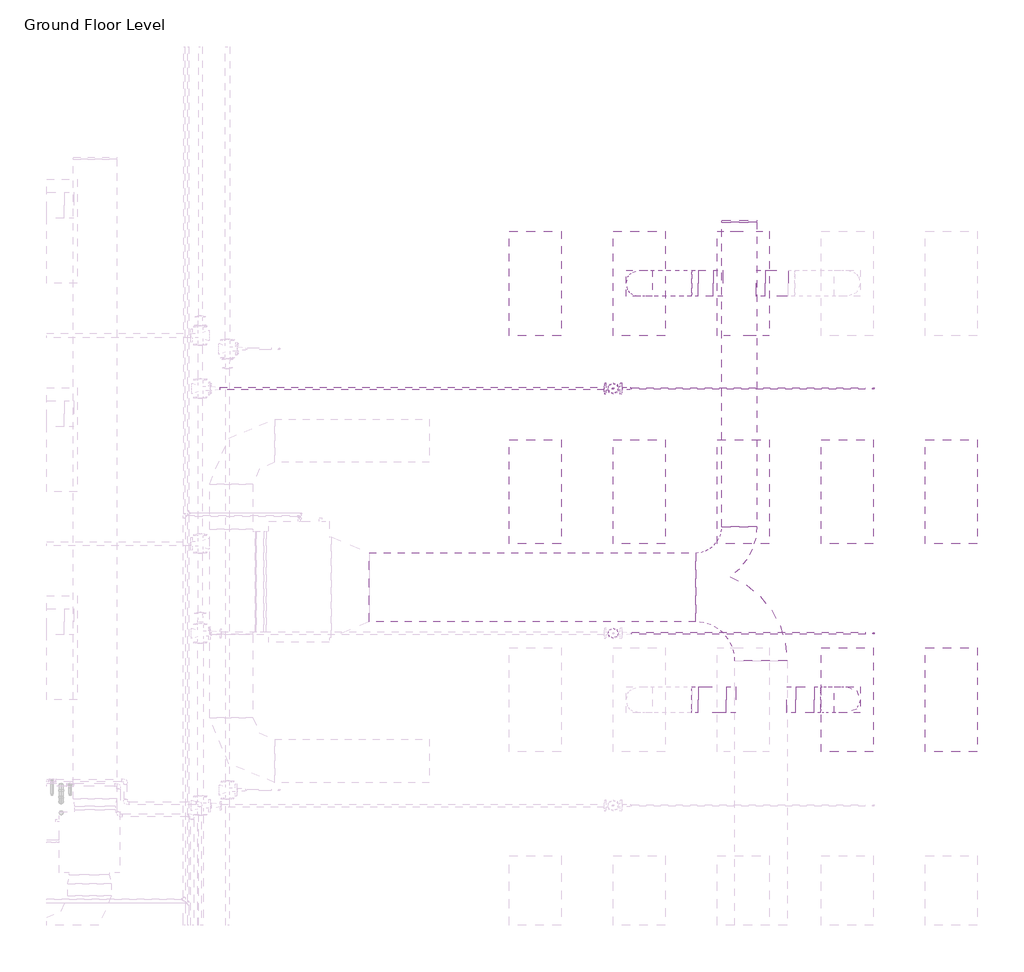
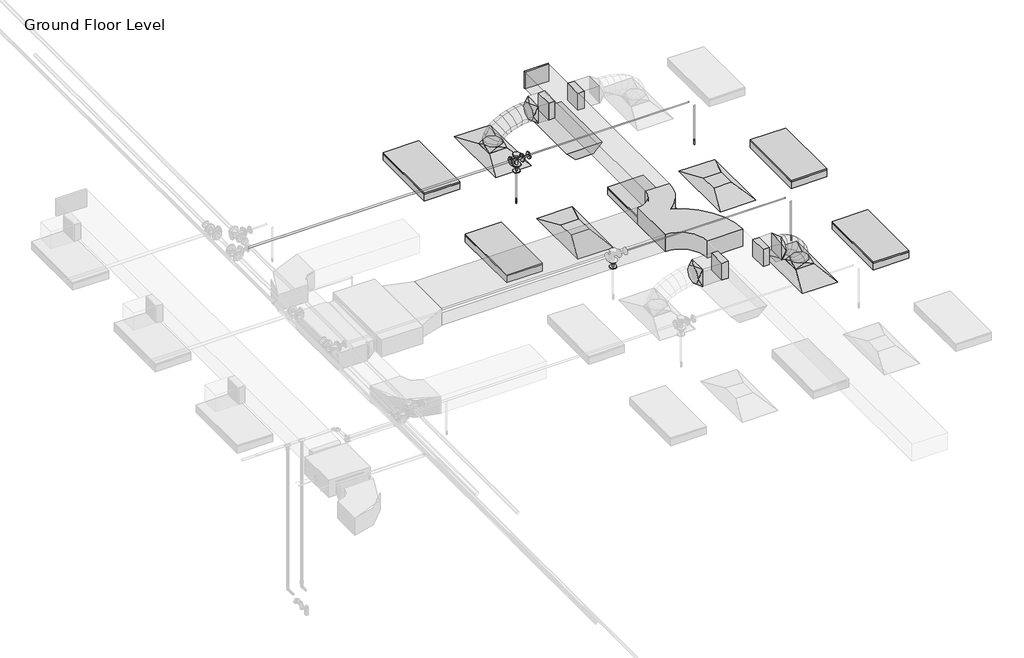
# One storey, part 27 of 66: 11 duct fittings, 8 duct segments, 6 light fixtures, 6 pipe segments, 4 air terminals, 4 pipe fittings, 3 fire suppression terminals.
"""IFC4 building model written with IfcOpenShell, lengths in millimetres."""

from ifc_helpers import new_model, si_unit, point, frame, frame_2d, origin, place, context, project, spatial, polyline, circle_curve, ellipse_curve, trimmed, segment, composite_curve, outline, extrude, transform, mapped, element, save
from ifc_brep_helpers import plane_surface, cylinder_surface, advanced_brep
from components import m_return_diffuser_1200x600_1200_x_600_face_300_x_300_d1983ef6, m_rectangular_endcap_standard_0945e9d3, m_rectangular_takeoff_standard_cb0ccb98, m_rectangular_takeoff_standard_2be5eba1, m_rectangular_wye_curved_transition_standard_4ceeb4da, m_rectangular_to_round_transition_angle_45_degree_641efff0, m_sprinkler_dry_pendent_hosted_15_mm_dry_pendent_9bda8e11, m_emergency_recessed_lighting_fixture_600x1200_277_5b10b25d, m_troffer_light_parabolic_rectangular1_0600x1200mm_4_lamp_86473d4a, m_reducer_flanged_cs_class_150_standard_ccf252ad, m_tee_round_base_flanged_cs_class_150_standard_7e5987a1

model = new_model("IFC4")

# Units and contexts
model_context = context("Model", 3, world=origin())
ifc_project = project(units=[si_unit("LENGTHUNIT", "METRE", prefix="MILLI")], contexts=[model_context])

# Site, building, storey
site = spatial("IfcSite", under=ifc_project)
building = spatial("IfcBuilding", under=site)
storey = spatial("IfcBuildingStorey", under=building, Name="Ground Floor Level", Elevation=900.0)

# Air terminals
placement = place(None, origin())
m_return_diffuser_1200x600_1200_x_600_face_300_x_300_shape = m_return_diffuser_1200x600_1200_x_600_face_300_x_300_d1983ef6(model_context)
element("IfcAirTerminal", 1, ObjectType="M_Return Diffuser 1200x600 : 1200 x 600 Face 300 x 300 Connection", at=placement, inside=storey, context=model_context, shape_type="MappedRepresentation", body=[
    mapped(m_return_diffuser_1200x600_1200_x_600_face_300_x_300_shape, transform((10743.0482736, -20464.7846466, 3650.0), x_axis=(0.0, 1.0, 0.0), y_axis=(-1.0, 0.0, 0.0), z_axis=(0.0, 0.0, 1.0))),
])
element("IfcAirTerminal", 2, ObjectType="M_Return Diffuser 1200x600 : 1200 x 600 Face 300 x 300 Connection", at=placement, inside=storey, context=model_context, shape_type="MappedRepresentation", body=[
    mapped(m_return_diffuser_1200x600_1200_x_600_face_300_x_300_shape, transform((13143.0482736, -20464.7846466, 3650.0), x_axis=(0.0, 1.0, 0.0), y_axis=(-1.0, 0.0, 0.0), z_axis=(0.0, 0.0, 1.0))),
])
element("IfcAirTerminal", 3, ObjectType="M_Supply Diffuser 1200x600 : 1200 x 600 Face 300 x 300 Connection", at=placement, inside=storey, context=model_context, shape_type="MappedRepresentation", body=[
    mapped(m_return_diffuser_1200x600_1200_x_600_face_300_x_300_shape, transform((10743.0482736, -18064.7846466, 3650.0), x_axis=(0.0, 1.0, 0.0), y_axis=(-1.0, 0.0, 0.0), z_axis=(0.0, 0.0, 1.0))),
])
element("IfcAirTerminal", 4, ObjectType="M_Supply Diffuser 1200x600 : 1200 x 600 Face 300 x 300 Connection", at=placement, inside=storey, context=model_context, shape_type="MappedRepresentation", body=[
    mapped(m_return_diffuser_1200x600_1200_x_600_face_300_x_300_shape, transform((13143.0482736, -22864.7846466, 3650.0), x_axis=(0.0, 1.0, 0.0), y_axis=(-1.0, 0.0, 0.0), z_axis=(0.0, 0.0, 1.0))),
])

# Duct fittings
m_rectangular_endcap_standard_shape = m_rectangular_endcap_standard_0945e9d3(model_context)
element("IfcDuctFitting", 5, ObjectType="M_Rectangular Endcap : Standard", at=placement, inside=storey, context=model_context, shape_type="MappedRepresentation", body=[
    mapped(m_rectangular_endcap_standard_shape, transform((11897.7826463, -17358.2846466, 4150.0003854), x_axis=(0.0, 1.0, 0.0), y_axis=(-1.0, 0.0, 0.0), z_axis=(0.0, 0.0, 1.0))),
])
m_rectangular_takeoff_standard_shape = m_rectangular_takeoff_standard_cb0ccb98(model_context)
element("IfcDuctFitting", 6, ObjectType="M_Rectangular Takeoff : Standard", at=placement, inside=storey, context=model_context, shape_type="MappedRepresentation", body=[
    mapped(m_rectangular_takeoff_standard_shape, transform((11697.7826463, -18064.7846466, 4150.0), x_axis=(-1.0, 0.0, 0.0), y_axis=(0.0, 1.0, 0.0), z_axis=(0.0, 0.0, -1.0))),
])
element("IfcDuctFitting", 7, ObjectType="M_Rectangular Takeoff : Standard", at=placement, inside=storey, context=model_context, shape_type="MappedRepresentation", body=[
    mapped(m_rectangular_takeoff_standard_shape, transform((12097.7826463, -18064.7846466, 4150.0), x_axis=(1.0, 0.0, 0.0), y_axis=(0.0, 1.0, 0.0), z_axis=(0.0, 0.0, 1.0))),
])
element("IfcDuctFitting", 8, ObjectType="M_Rectangular Takeoff : Standard", at=placement, inside=storey, context=model_context, shape_type="MappedRepresentation", body=[
    mapped(m_rectangular_takeoff_standard_shape, transform((12447.7826463, -22864.7846466, 4150.0), x_axis=(1.0, 0.0, 0.0), y_axis=(0.0, -1.0, 0.0), z_axis=(0.0, 0.0, -1.0))),
])
m_rectangular_takeoff_standard_2_shape = m_rectangular_takeoff_standard_2be5eba1(model_context)
element("IfcDuctFitting", 9, ObjectType="M_Rectangular Takeoff : Standard", at=placement, inside=storey, context=model_context, shape_type="MappedRepresentation", body=[
    mapped(m_rectangular_takeoff_standard_2_shape, transform((11847.7826463, -22864.7846466, 4150.0), x_axis=(-1.0, 0.0, 0.0), y_axis=(0.0, 1.0, 0.0), z_axis=(0.0, 0.0, -1.0))),
])
m_rectangular_wye_curved_transition_standard_shape = m_rectangular_wye_curved_transition_standard_4ceeb4da(model_context)
element("IfcDuctFitting", 10, ObjectType="M_Rectangular Wye - Curved - Transition : Standard", at=placement, inside=storey, context=model_context, shape_type="MappedRepresentation", body=[
    mapped(m_rectangular_wye_curved_transition_standard_shape, transform((12022.7826463, -21566.5689179, 4150.0003003), x_axis=(0.0, 1.0, 0.0), y_axis=(-0.9999999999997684, 0.0, 6.806625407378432e-07), z_axis=(6.806625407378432e-07, 0.0, 0.9999999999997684))),
])
m_rectangular_to_round_transition_angle_45_degree_shape = m_rectangular_to_round_transition_angle_45_degree_641efff0(model_context)
element("IfcDuctFitting", 11, ObjectType="M_Rectangular to Round Transition - Angle : 45 Degree", at=placement, inside=storey, context=model_context, shape_type="MappedRepresentation", body=[
    mapped(m_rectangular_to_round_transition_angle_45_degree_shape, transform((10743.0482736, -18064.7846466, 3751.6), x_axis=(0.0, 0.0, 1.0), y_axis=(-1.0, 0.0, 0.0), z_axis=(0.0, -1.0, 0.0))),
])
element("IfcDuctFitting", 12, ObjectType="M_Rectangular to Round Transition - Angle : 45 Degree", at=placement, inside=storey, context=model_context, shape_type="MappedRepresentation", body=[
    mapped(m_rectangular_to_round_transition_angle_45_degree_shape, transform((11424.4842049, -18064.7846466, 4150.0), x_axis=(-1.0, 0.0, 0.0), y_axis=(0.0, -1.0, 0.0), z_axis=(0.0, 0.0, 1.0))),
])
element("IfcDuctFitting", 13, ObjectType="M_Rectangular to Round Transition - Angle : 45 Degree", at=placement, inside=storey, context=model_context, shape_type="MappedRepresentation", body=[
    mapped(m_rectangular_to_round_transition_angle_45_degree_shape, transform((11424.4842049, -22864.7846466, 4150.0), x_axis=(-1.0, 0.0, 0.0), y_axis=(0.0, -1.0, 0.0), z_axis=(0.0, 0.0, 1.0))),
])
element("IfcDuctFitting", 14, ObjectType="M_Rectangular to Round Transition - Angle : 45 Degree", at=placement, inside=storey, context=model_context, shape_type="MappedRepresentation", body=[
    mapped(m_rectangular_to_round_transition_angle_45_degree_shape, transform((13143.0482736, -22864.7846466, 3751.6), x_axis=(0.0, 0.0, 1.0), y_axis=(-1.0, 0.0, 0.0), z_axis=(0.0, -1.0, 0.0))),
])
element("IfcDuctFitting", 15, ObjectType="M_Rectangular to Round Transition - Angle : 45 Degree", at=placement, inside=storey, context=model_context, shape_type="MappedRepresentation", body=[
    mapped(m_rectangular_to_round_transition_angle_45_degree_shape, transform((12761.6125477, -22864.7846466, 4150.0), x_axis=(1.0, 0.0, 0.0), y_axis=(0.0, 1.0, 0.0), z_axis=(0.0, 0.0, 1.0))),
])

# Duct segments
element("IfcDuctSegment", 16, ObjectType="Flex - Round", at=placement, inside=storey, context=model_context, shape_type="AdvancedBrep", body=[
    advanced_brep(
    [(10893.0482736, -18064.7846466, 3826.6), (10743.0482736, -18214.7846466, 3826.6), (10593.0482736, -18064.7846466, 3826.6), (10743.0482736, -17914.7846466, 3826.6), (10893.0482736, -18064.7846466, 3832.4838104), (10743.0482736, -18214.7846466, 3857.3049615), (10593.0482736, -18064.7846466, 3882.1261126), (10743.0482736, -17914.7846466, 3857.3049615), (10895.1777586, -18064.7846466, 3838.7421096), (10759.7096782, -18214.7846466, 3906.2708192), (10624.2415979, -18064.7846466, 3973.7995287), (10759.7096782, -17914.7846466, 3906.2708192), (10917.1997864, -18064.7846466, 3871.1472855), (10805.5876959, -18214.7846466, 3973.7798261), (10693.9756053, -18064.7846466, 4076.4123668), (10805.5876959, -17914.7846466, 3973.7798261), (10957.142511, -18064.7846466, 3903.4915826), (10874.5230324, -18214.7846466, 4029.6013814), (10791.9035539, -18064.7846466, 4155.7111802), (10874.5230324, -17914.7846466, 4029.6013814), (11020.0646936, -18064.7846466, 3936.1928758), (10960.3563938, -18214.7846466, 4074.2098454), (10900.6480941, -18064.7846466, 4212.226815), (10960.3563938, -17914.7846466, 4074.2098454), (11098.9170855, -18064.7846466, 3963.8479616), (11056.9284859, -18214.7846466, 4108.0795788), (11014.9398863, -18064.7846466, 4252.311196), (11056.9284859, -17914.7846466, 4108.0795788), (11185.4890682, -18064.7846466, 3984.0509494), (11158.0800145, -18214.7846466, 4131.684942), (11130.6709609, -18064.7846466, 4279.3189347), (11158.0800145, -17914.7846466, 4131.684942), (11271.9732516, -18064.7846466, 3996.0504424), (11257.6516856, -18214.7846466, 4145.5002956), (11243.3301196, -18064.7846466, 4294.9501488), (11257.6516856, -17914.7846466, 4145.5002956), (11346.1345531, -18064.7846466, 4000.0), (11342.1431577, -18214.7846466, 4150.0), (11338.1517622, -18064.7846466, 4300.0), (11342.1431577, -17914.7846466, 4150.0), (11349.4842049, -18064.7846466, 4000.0), (11349.4842049, -17914.7846466, 4150.0), (11349.4842049, -18064.7846466, 4300.0), (11349.4842049, -18214.7846466, 4150.0)],
    [
        (0, 1, circle_curve(frame((10743.0482736, -18064.7846466, 3826.6), z_axis=(0.0, 0.0, -1.0), x_axis=(1.0, 0.0, 0.0)), 150.0)),
        (1, 2, circle_curve(frame((10743.0482736, -18064.7846466, 3826.6), z_axis=(0.0, 0.0, -1.0), x_axis=(1.0, 0.0, 0.0)), 150.0)),
        (2, 3, circle_curve(frame((10743.0482736, -18064.7846466, 3826.6), z_axis=(0.0, 0.0, -1.0), x_axis=(1.0, 0.0, 0.0)), 150.0)),
        (3, 0, circle_curve(frame((10743.0482736, -18064.7846466, 3826.6), z_axis=(0.0, 0.0, -1.0), x_axis=(1.0, 0.0, 0.0)), 150.0)),
        (0, 4),
        (4, 5, ellipse_curve(frame((10743.0482736, -18064.7846466, 3857.3049615), z_axis=(-0.1632543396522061, 0.0, -0.9865840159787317), x_axis=(0.9865840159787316, 0.0, -0.16325433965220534)), 152.039763, 150.0)),
        (5, 1),
        (5, 6, ellipse_curve(frame((10743.0482736, -18064.7846466, 3857.3049615), z_axis=(-0.1632543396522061, 0.0, -0.9865840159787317), x_axis=(0.9865840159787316, 0.0, -0.16325433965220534)), 152.039763, 150.0)),
        (6, 2),
        (6, 7, ellipse_curve(frame((10743.0482736, -18064.7846466, 3857.3049615), z_axis=(-0.1632543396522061, 0.0, -0.9865840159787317), x_axis=(0.9865840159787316, 0.0, -0.16325433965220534)), 152.039763, 150.0)),
        (7, 3),
        (7, 4, ellipse_curve(frame((10743.0482736, -18064.7846466, 3857.3049615), z_axis=(-0.1632543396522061, 0.0, -0.9865840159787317), x_axis=(0.9865840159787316, 0.0, -0.16325433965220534)), 152.039763, 150.0)),
        (4, 8),
        (8, 9, ellipse_curve(frame((10759.7096782, -18064.7846466, 3906.2708192), z_axis=(-0.4461280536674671, 0.0, -0.8949691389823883), x_axis=(0.8949691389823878, 0.0, -0.4461280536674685)), 151.366203, 150.0)),
        (9, 5),
        (9, 10, ellipse_curve(frame((10759.7096782, -18064.7846466, 3906.2708192), z_axis=(-0.4461280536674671, 0.0, -0.8949691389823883), x_axis=(0.8949691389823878, 0.0, -0.4461280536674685)), 151.366203, 150.0)),
        (10, 6),
        (10, 11, ellipse_curve(frame((10759.7096782, -18064.7846466, 3906.2708192), z_axis=(-0.4461280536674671, 0.0, -0.8949691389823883), x_axis=(0.8949691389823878, 0.0, -0.4461280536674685)), 151.366203, 150.0)),
        (11, 7),
        (11, 8, ellipse_curve(frame((10759.7096782, -18064.7846466, 3906.2708192), z_axis=(-0.4461280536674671, 0.0, -0.8949691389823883), x_axis=(0.8949691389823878, 0.0, -0.4461280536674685)), 151.366203, 150.0)),
        (8, 12),
        (12, 13, ellipse_curve(frame((10805.5876959, -18064.7846466, 3973.7798261), z_axis=(-0.676875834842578, 0.0, -0.7360972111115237), x_axis=(0.7360972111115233, 0.0, -0.6768758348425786)), 151.6268352, 150.0)),
        (13, 9),
        (13, 14, ellipse_curve(frame((10805.5876959, -18064.7846466, 3973.7798261), z_axis=(-0.676875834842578, 0.0, -0.7360972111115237), x_axis=(0.7360972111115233, 0.0, -0.6768758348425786)), 151.6268352, 150.0)),
        (14, 10),
        (14, 15, ellipse_curve(frame((10805.5876959, -18064.7846466, 3973.7798261), z_axis=(-0.676875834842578, 0.0, -0.7360972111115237), x_axis=(0.7360972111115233, 0.0, -0.6768758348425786)), 151.6268352, 150.0)),
        (15, 11),
        (15, 12, ellipse_curve(frame((10805.5876959, -18064.7846466, 3973.7798261), z_axis=(-0.676875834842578, 0.0, -0.7360972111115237), x_axis=(0.7360972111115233, 0.0, -0.6768758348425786)), 151.6268352, 150.0)),
        (12, 16),
        (16, 17, ellipse_curve(frame((10874.5230324, -18064.7846466, 4029.6013814), z_axis=(-0.8364738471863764, 0.0, -0.5480068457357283), x_axis=(0.5480068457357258, 0.0, -0.8364738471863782)), 150.7635884, 150.0)),
        (17, 13),
        (17, 18, ellipse_curve(frame((10874.5230324, -18064.7846466, 4029.6013814), z_axis=(-0.8364738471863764, 0.0, -0.5480068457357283), x_axis=(0.5480068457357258, 0.0, -0.8364738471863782)), 150.7635884, 150.0)),
        (18, 14),
        (18, 19, ellipse_curve(frame((10874.5230324, -18064.7846466, 4029.6013814), z_axis=(-0.8364738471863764, 0.0, -0.5480068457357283), x_axis=(0.5480068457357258, 0.0, -0.8364738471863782)), 150.7635884, 150.0)),
        (19, 15),
        (19, 16, ellipse_curve(frame((10874.5230324, -18064.7846466, 4029.6013814), z_axis=(-0.8364738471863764, 0.0, -0.5480068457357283), x_axis=(0.5480068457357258, 0.0, -0.8364738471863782)), 150.7635884, 150.0)),
        (16, 20),
        (20, 21, ellipse_curve(frame((10960.3563938, -18064.7846466, 4074.2098454), z_axis=(-0.9177957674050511, 0.0, -0.39705280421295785), x_axis=(0.3970528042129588, 0.0, -0.9177957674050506)), 150.3787384, 150.0)),
        (21, 17),
        (21, 22, ellipse_curve(frame((10960.3563938, -18064.7846466, 4074.2098454), z_axis=(-0.9177957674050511, 0.0, -0.39705280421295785), x_axis=(0.3970528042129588, 0.0, -0.9177957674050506)), 150.3787384, 150.0)),
        (22, 18),
        (22, 23, ellipse_curve(frame((10960.3563938, -18064.7846466, 4074.2098454), z_axis=(-0.9177957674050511, 0.0, -0.39705280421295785), x_axis=(0.3970528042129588, 0.0, -0.9177957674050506)), 150.3787384, 150.0)),
        (23, 19),
        (23, 20, ellipse_curve(frame((10960.3563938, -18064.7846466, 4074.2098454), z_axis=(-0.9177957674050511, 0.0, -0.39705280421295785), x_axis=(0.3970528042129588, 0.0, -0.9177957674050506)), 150.3787384, 150.0)),
        (20, 24),
        (24, 25, ellipse_curve(frame((11056.9284859, -18064.7846466, 4108.0795788), z_axis=(-0.9601411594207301, 0.0, -0.2795155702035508), x_axis=(0.2795155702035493, 0.0, -0.9601411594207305)), 150.2191795, 150.0)),
        (25, 21),
        (25, 26, ellipse_curve(frame((11056.9284859, -18064.7846466, 4108.0795788), z_axis=(-0.9601411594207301, 0.0, -0.2795155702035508), x_axis=(0.2795155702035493, 0.0, -0.9601411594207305)), 150.2191795, 150.0)),
        (26, 22),
        (26, 27, ellipse_curve(frame((11056.9284859, -18064.7846466, 4108.0795788), z_axis=(-0.9601411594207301, 0.0, -0.2795155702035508), x_axis=(0.2795155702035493, 0.0, -0.9601411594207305)), 150.2191795, 150.0)),
        (27, 23),
        (27, 24, ellipse_curve(frame((11056.9284859, -18064.7846466, 4108.0795788), z_axis=(-0.9601411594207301, 0.0, -0.2795155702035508), x_axis=(0.2795155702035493, 0.0, -0.9601411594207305)), 150.2191795, 150.0)),
        (24, 28),
        (28, 29, ellipse_curve(frame((11158.0800145, -18064.7846466, 4131.684942), z_axis=(-0.9831991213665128, 0.0, -0.18253626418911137), x_axis=(0.18253626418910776, 0.0, -0.9831991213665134)), 150.1567581, 150.0)),
        (29, 25),
        (29, 30, ellipse_curve(frame((11158.0800145, -18064.7846466, 4131.684942), z_axis=(-0.9831991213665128, 0.0, -0.18253626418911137), x_axis=(0.18253626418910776, 0.0, -0.9831991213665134)), 150.1567581, 150.0)),
        (30, 26),
        (30, 31, ellipse_curve(frame((11158.0800145, -18064.7846466, 4131.684942), z_axis=(-0.9831991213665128, 0.0, -0.18253626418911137), x_axis=(0.18253626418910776, 0.0, -0.9831991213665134)), 150.1567581, 150.0)),
        (31, 27),
        (31, 28, ellipse_curve(frame((11158.0800145, -18064.7846466, 4131.684942), z_axis=(-0.9831991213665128, 0.0, -0.18253626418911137), x_axis=(0.18253626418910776, 0.0, -0.9831991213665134)), 150.1567581, 150.0)),
        (28, 32),
        (32, 33, ellipse_curve(frame((11257.6516856, -18064.7846466, 4145.5002956), z_axis=(-0.9954398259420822, 0.0, -0.09539157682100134), x_axis=(0.09539157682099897, 0.0, -0.9954398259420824)), 150.1344926, 150.0)),
        (33, 29),
        (33, 34, ellipse_curve(frame((11257.6516856, -18064.7846466, 4145.5002956), z_axis=(-0.9954398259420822, 0.0, -0.09539157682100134), x_axis=(0.09539157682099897, 0.0, -0.9954398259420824)), 150.1344926, 150.0)),
        (34, 30),
        (34, 35, ellipse_curve(frame((11257.6516856, -18064.7846466, 4145.5002956), z_axis=(-0.9954398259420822, 0.0, -0.09539157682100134), x_axis=(0.09539157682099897, 0.0, -0.9954398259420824)), 150.1344926, 150.0)),
        (35, 31),
        (35, 32, ellipse_curve(frame((11257.6516856, -18064.7846466, 4145.5002956), z_axis=(-0.9954398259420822, 0.0, -0.09539157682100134), x_axis=(0.09539157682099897, 0.0, -0.9954398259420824)), 150.1344926, 150.0)),
        (32, 36),
        (36, 37, ellipse_curve(frame((11342.1431577, -18064.7846466, 4150.0), z_axis=(-0.9996461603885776, 0.0, -0.02659988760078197), x_axis=(0.026599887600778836, 0.0, -0.9996461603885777)), 150.0530947, 150.0)),
        (37, 33),
        (37, 38, ellipse_curve(frame((11342.1431577, -18064.7846466, 4150.0), z_axis=(-0.9996461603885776, 0.0, -0.02659988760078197), x_axis=(0.026599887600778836, 0.0, -0.9996461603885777)), 150.0530947, 150.0)),
        (38, 34),
        (38, 39, ellipse_curve(frame((11342.1431577, -18064.7846466, 4150.0), z_axis=(-0.9996461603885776, 0.0, -0.02659988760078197), x_axis=(0.026599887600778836, 0.0, -0.9996461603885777)), 150.0530947, 150.0)),
        (39, 35),
        (39, 36, ellipse_curve(frame((11342.1431577, -18064.7846466, 4150.0), z_axis=(-0.9996461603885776, 0.0, -0.02659988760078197), x_axis=(0.026599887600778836, 0.0, -0.9996461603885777)), 150.0530947, 150.0)),
        (40, 41, circle_curve(frame((11349.4842049, -18064.7846466, 4150.0), z_axis=(1.0, 0.0, 0.0), x_axis=(0.0, 0.0, -1.0)), 150.0)),
        (41, 42, circle_curve(frame((11349.4842049, -18064.7846466, 4150.0), z_axis=(1.0, 0.0, 0.0), x_axis=(0.0, 0.0, -1.0)), 150.0)),
        (42, 43, circle_curve(frame((11349.4842049, -18064.7846466, 4150.0), z_axis=(1.0, 0.0, 0.0), x_axis=(0.0, 0.0, -1.0)), 150.0)),
        (43, 40, circle_curve(frame((11349.4842049, -18064.7846466, 4150.0), z_axis=(1.0, 0.0, 0.0), x_axis=(0.0, 0.0, -1.0)), 150.0)),
        (36, 40),
        (43, 37),
        (42, 38),
        (41, 39),
    ],
    [
        plane_surface(frame((10743.0482736, -18214.7846466, 3826.6), z_axis=(0.0, 0.0, -1.0), x_axis=(1.0, 0.0, 0.0))),
        cylinder_surface(frame((10743.0482736, -18064.7846466, 3826.6), z_axis=(0.0, 0.0, -1.0), x_axis=(1.0, 0.0, 0.0)), 150.0),
        cylinder_surface(frame((10743.0482736, -18064.7846466, 3857.3049615), z_axis=(-0.3221282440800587, 0.0, -0.9466960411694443), x_axis=(0.9466960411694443, 0.0, -0.3221282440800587)), 150.0),
        cylinder_surface(frame((10759.7096782, -18064.7846466, 3906.2708192), z_axis=(-0.5620745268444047, 0.0, -0.8270865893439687), x_axis=(0.8270865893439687, 0.0, -0.5620745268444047)), 150.0),
        cylinder_surface(frame((10805.5876959, -18064.7846466, 3973.7798261), z_axis=(-0.7771524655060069, 0.0, -0.629312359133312), x_axis=(0.629312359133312, 0.0, -0.7771524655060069)), 150.0),
        cylinder_surface(frame((10874.5230324, -18064.7846466, 4029.6013814), z_axis=(-0.8873220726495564, 0.0, -0.46115023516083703), x_axis=(0.46115023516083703, 0.0, -0.8873220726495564)), 150.0),
        cylinder_surface(frame((10960.3563938, -18064.7846466, 4074.2098454), z_axis=(-0.9436464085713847, 0.0, -0.3309553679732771), x_axis=(0.3309553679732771, 0.0, -0.9436464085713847)), 150.0),
        cylinder_surface(frame((11056.9284859, -18064.7846466, 4108.0795788), z_axis=(-0.9738340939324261, 0.0, -0.22726010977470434), x_axis=(0.22726010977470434, 0.0, -0.9738340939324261)), 150.0),
        cylinder_surface(frame((11158.0800145, -18064.7846466, 4131.684942), z_axis=(-0.9905113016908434, 0.0, -0.13743129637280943), x_axis=(0.13743129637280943, 0.0, -0.9905113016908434)), 150.0),
        cylinder_surface(frame((11257.6516856, -18064.7846466, 4145.5002956), z_axis=(-0.9985848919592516, 0.0, -0.05318095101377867), x_axis=(0.05318095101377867, 0.0, -0.9985848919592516)), 150.0),
        plane_surface(frame((11349.4842049, -18064.7846466, 4000.0), z_axis=(1.0, 0.0, 0.0), x_axis=(0.0, 1.0, 0.0))),
        cylinder_surface(frame((11342.1431577, -18064.7846466, 4150.0), z_axis=(-1.0, 0.0, 0.0), x_axis=(0.0, 0.0, -1.0)), 150.0),
    ],
    [
        (0, [[1, 2, 3, 4]]),
        (1, [[-1, 5, 6, 7]]),
        (1, [[-2, -7, 8, 9]]),
        (1, [[-3, -9, 10, 11]]),
        (1, [[-4, -11, 12, -5]]),
        (2, [[-6, 13, 14, 15]]),
        (2, [[-8, -15, 16, 17]]),
        (2, [[-10, -17, 18, 19]]),
        (2, [[-12, -19, 20, -13]]),
        (3, [[-14, 21, 22, 23]]),
        (3, [[-16, -23, 24, 25]]),
        (3, [[-18, -25, 26, 27]]),
        (3, [[-20, -27, 28, -21]]),
        (4, [[-22, 29, 30, 31]]),
        (4, [[-24, -31, 32, 33]]),
        (4, [[-26, -33, 34, 35]]),
        (4, [[-28, -35, 36, -29]]),
        (5, [[-30, 37, 38, 39]]),
        (5, [[-32, -39, 40, 41]]),
        (5, [[-34, -41, 42, 43]]),
        (5, [[-36, -43, 44, -37]]),
        (6, [[-38, 45, 46, 47]]),
        (6, [[-40, -47, 48, 49]]),
        (6, [[-42, -49, 50, 51]]),
        (6, [[-44, -51, 52, -45]]),
        (7, [[-46, 53, 54, 55]]),
        (7, [[-48, -55, 56, 57]]),
        (7, [[-50, -57, 58, 59]]),
        (7, [[-52, -59, 60, -53]]),
        (8, [[-54, 61, 62, 63]]),
        (8, [[-56, -63, 64, 65]]),
        (8, [[-58, -65, 66, 67]]),
        (8, [[-60, -67, 68, -61]]),
        (9, [[-62, 69, 70, 71]]),
        (9, [[-64, -71, 72, 73]]),
        (9, [[-66, -73, 74, 75]]),
        (9, [[-68, -75, 76, -69]]),
        (10, [[77, 78, 79, 80]]),
        (11, [[-70, 81, -80, 82]]),
        (11, [[-72, -82, -79, 83]]),
        (11, [[-74, -83, -78, 84]]),
        (11, [[-76, -84, -77, -81]]),
    ],
),
])
element("IfcDuctSegment", 17, ObjectType="Flex - Round", at=placement, inside=storey, context=model_context, shape_type="AdvancedBrep", body=[
    advanced_brep(
    [(13293.0482736, -22864.7846466, 3826.6), (13143.0482736, -23014.7846466, 3826.6), (12993.0482736, -22864.7846466, 3826.6), (13143.0482736, -22714.7846466, 3826.6), (13293.0482736, -22864.7846466, 3876.0801412), (13143.0482736, -23014.7846466, 3855.2056612), (12993.0482736, -22864.7846466, 3834.3311813), (13143.0482736, -22714.7846466, 3855.2056612), (13265.1827485, -22864.7846466, 3974.2593667), (13125.4356823, -23014.7846466, 3917.2604967), (12985.6886161, -22864.7846466, 3860.2616267), (13125.4356823, -22714.7846466, 3917.2604967), (13200.641408, -22864.7846466, 4092.9658971), (13077.9530706, -23014.7846466, 4004.5920588), (12955.2647333, -22864.7846466, 3916.2182204), (13077.9530706, -22714.7846466, 4004.5920588), (13104.7566275, -22864.7846466, 4195.7964222), (13008.633182, -23014.7846466, 4078.9333725), (12912.5097364, -22864.7846466, 3962.0703229), (13008.633182, -22714.7846466, 4078.9333725), (12990.1102871, -22864.7846466, 4267.0876349), (12925.5087598, -23014.7846466, 4130.6231242), (12860.9072326, -22864.7846466, 3994.1586134), (12925.5087598, -22714.7846466, 4130.6231242), (12893.3776503, -22864.7846466, 4300.0), (12868.5582402, -23014.7846466, 4150.0), (12843.7388301, -22864.7846466, 4000.0), (12868.5582402, -22714.7846466, 4150.0), (12836.6125477, -22864.7846466, 4300.0), (12836.6125477, -23014.7846466, 4150.0), (12836.6125477, -22864.7846466, 4000.0), (12836.6125477, -22714.7846466, 4150.0)],
    [
        (0, 1, circle_curve(frame((13143.0482736, -22864.7846466, 3826.6), z_axis=(0.0, 0.0, -1.0), x_axis=(1.0, 0.0, 0.0)), 150.0)),
        (1, 2, circle_curve(frame((13143.0482736, -22864.7846466, 3826.6), z_axis=(0.0, 0.0, -1.0), x_axis=(1.0, 0.0, 0.0)), 150.0)),
        (2, 3, circle_curve(frame((13143.0482736, -22864.7846466, 3826.6), z_axis=(0.0, 0.0, -1.0), x_axis=(1.0, 0.0, 0.0)), 150.0)),
        (3, 0, circle_curve(frame((13143.0482736, -22864.7846466, 3826.6), z_axis=(0.0, 0.0, -1.0), x_axis=(1.0, 0.0, 0.0)), 150.0)),
        (0, 4),
        (4, 5, ellipse_curve(frame((13143.0482736, -22864.7846466, 3855.2056612), z_axis=(0.13783491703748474, 0.0, -0.9904552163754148), x_axis=(-0.9904552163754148, 0.0, -0.13783491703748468)), 151.4455147, 150.0)),
        (5, 1),
        (5, 6, ellipse_curve(frame((13143.0482736, -22864.7846466, 3855.2056612), z_axis=(0.13783491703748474, 0.0, -0.9904552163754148), x_axis=(-0.9904552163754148, 0.0, -0.13783491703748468)), 151.4455147, 150.0)),
        (6, 2),
        (6, 7, ellipse_curve(frame((13143.0482736, -22864.7846466, 3855.2056612), z_axis=(0.13783491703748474, 0.0, -0.9904552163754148), x_axis=(-0.9904552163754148, 0.0, -0.13783491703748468)), 151.4455147, 150.0)),
        (7, 3),
        (7, 4, ellipse_curve(frame((13143.0482736, -22864.7846466, 3855.2056612), z_axis=(0.13783491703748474, 0.0, -0.9904552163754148), x_axis=(-0.9904552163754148, 0.0, -0.13783491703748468)), 151.4455147, 150.0)),
        (4, 8),
        (8, 9, ellipse_curve(frame((13125.4356823, -22864.7846466, 3917.2604967), z_axis=(0.3776655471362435, 0.0, -0.9259420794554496), x_axis=(-0.9259420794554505, 0.0, -0.3776655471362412)), 150.9241985, 150.0)),
        (9, 5),
        (9, 10, ellipse_curve(frame((13125.4356823, -22864.7846466, 3917.2604967), z_axis=(0.3776655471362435, 0.0, -0.9259420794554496), x_axis=(-0.9259420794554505, 0.0, -0.3776655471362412)), 150.9241985, 150.0)),
        (10, 6),
        (10, 11, ellipse_curve(frame((13125.4356823, -22864.7846466, 3917.2604967), z_axis=(0.3776655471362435, 0.0, -0.9259420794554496), x_axis=(-0.9259420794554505, 0.0, -0.3776655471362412)), 150.9241985, 150.0)),
        (11, 7),
        (11, 8, ellipse_curve(frame((13125.4356823, -22864.7846466, 3917.2604967), z_axis=(0.3776655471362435, 0.0, -0.9259420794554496), x_axis=(-0.9259420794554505, 0.0, -0.3776655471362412)), 150.9241985, 150.0)),
        (8, 12),
        (12, 13, ellipse_curve(frame((13077.9530706, -22864.7846466, 4004.5920588), z_axis=(0.5844712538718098, 0.0, -0.8114144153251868), x_axis=(-0.8114144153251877, 0.0, -0.5844712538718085)), 151.2030536, 150.0)),
        (13, 9),
        (13, 14, ellipse_curve(frame((13077.9530706, -22864.7846466, 4004.5920588), z_axis=(0.5844712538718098, 0.0, -0.8114144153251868), x_axis=(-0.8114144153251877, 0.0, -0.5844712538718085)), 151.2030536, 150.0)),
        (14, 10),
        (14, 15, ellipse_curve(frame((13077.9530706, -22864.7846466, 4004.5920588), z_axis=(0.5844712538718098, 0.0, -0.8114144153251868), x_axis=(-0.8114144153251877, 0.0, -0.5844712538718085)), 151.2030536, 150.0)),
        (15, 11),
        (15, 12, ellipse_curve(frame((13077.9530706, -22864.7846466, 4004.5920588), z_axis=(0.5844712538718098, 0.0, -0.8114144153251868), x_axis=(-0.8114144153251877, 0.0, -0.5844712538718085)), 151.2030536, 150.0)),
        (12, 16),
        (16, 17, ellipse_curve(frame((13008.633182, -22864.7846466, 4078.9333725), z_axis=(0.7723086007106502, 0.0, -0.6352475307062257), x_axis=(-0.6352475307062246, 0.0, -0.7723086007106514)), 151.3165198, 150.0)),
        (17, 13),
        (17, 18, ellipse_curve(frame((13008.633182, -22864.7846466, 4078.9333725), z_axis=(0.7723086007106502, 0.0, -0.6352475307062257), x_axis=(-0.6352475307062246, 0.0, -0.7723086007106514)), 151.3165198, 150.0)),
        (18, 14),
        (18, 19, ellipse_curve(frame((13008.633182, -22864.7846466, 4078.9333725), z_axis=(0.7723086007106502, 0.0, -0.6352475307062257), x_axis=(-0.6352475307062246, 0.0, -0.7723086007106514)), 151.3165198, 150.0)),
        (19, 15),
        (19, 16, ellipse_curve(frame((13008.633182, -22864.7846466, 4078.9333725), z_axis=(0.7723086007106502, 0.0, -0.6352475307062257), x_axis=(-0.6352475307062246, 0.0, -0.7723086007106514)), 151.3165198, 150.0)),
        (16, 20),
        (20, 21, ellipse_curve(frame((12925.5087598, -22864.7846466, 4130.6231242), z_axis=(0.9038391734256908, 0.0, -0.4278723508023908), x_axis=(-0.4278723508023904, 0.0, -0.903839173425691)), 150.983178, 150.0)),
        (21, 17),
        (21, 22, ellipse_curve(frame((12925.5087598, -22864.7846466, 4130.6231242), z_axis=(0.9038391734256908, 0.0, -0.4278723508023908), x_axis=(-0.4278723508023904, 0.0, -0.903839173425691)), 150.983178, 150.0)),
        (22, 18),
        (22, 23, ellipse_curve(frame((12925.5087598, -22864.7846466, 4130.6231242), z_axis=(0.9038391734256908, 0.0, -0.4278723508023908), x_axis=(-0.4278723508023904, 0.0, -0.903839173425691)), 150.983178, 150.0)),
        (23, 19),
        (23, 20, ellipse_curve(frame((12925.5087598, -22864.7846466, 4130.6231242), z_axis=(0.9038391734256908, 0.0, -0.4278723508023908), x_axis=(-0.4278723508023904, 0.0, -0.903839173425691)), 150.983178, 150.0)),
        (20, 24),
        (24, 25, ellipse_curve(frame((12868.5582402, -22864.7846466, 4150.0), z_axis=(0.9865858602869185, 0.0, -0.16324319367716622), x_axis=(-0.16324319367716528, 0.0, -0.9865858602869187)), 152.0394788, 150.0)),
        (25, 21),
        (25, 26, ellipse_curve(frame((12868.5582402, -22864.7846466, 4150.0), z_axis=(0.9865858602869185, 0.0, -0.16324319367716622), x_axis=(-0.16324319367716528, 0.0, -0.9865858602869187)), 152.0394788, 150.0)),
        (26, 22),
        (26, 27, ellipse_curve(frame((12868.5582402, -22864.7846466, 4150.0), z_axis=(0.9865858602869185, 0.0, -0.16324319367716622), x_axis=(-0.16324319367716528, 0.0, -0.9865858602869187)), 152.0394788, 150.0)),
        (27, 23),
        (27, 24, ellipse_curve(frame((12868.5582402, -22864.7846466, 4150.0), z_axis=(0.9865858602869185, 0.0, -0.16324319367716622), x_axis=(-0.16324319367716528, 0.0, -0.9865858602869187)), 152.0394788, 150.0)),
        (24, 28),
        (28, 29, circle_curve(frame((12836.6125477, -22864.7846466, 4150.0), z_axis=(1.0, 0.0, 0.0), x_axis=(0.0, 0.0, 1.0)), 150.0)),
        (29, 25),
        (29, 30, circle_curve(frame((12836.6125477, -22864.7846466, 4150.0), z_axis=(1.0, 0.0, 0.0), x_axis=(0.0, 0.0, 1.0)), 150.0)),
        (30, 26),
        (30, 31, circle_curve(frame((12836.6125477, -22864.7846466, 4150.0), z_axis=(1.0, 0.0, 0.0), x_axis=(0.0, 0.0, 1.0)), 150.0)),
        (31, 27),
        (31, 28, circle_curve(frame((12836.6125477, -22864.7846466, 4150.0), z_axis=(1.0, 0.0, 0.0), x_axis=(0.0, 0.0, 1.0)), 150.0)),
    ],
    [
        plane_surface(frame((13143.0482736, -23014.7846466, 3826.6), z_axis=(0.0, 0.0, -1.0), x_axis=(1.0, 0.0, 0.0))),
        cylinder_surface(frame((13143.0482736, -22864.7846466, 3826.6), z_axis=(0.0, 0.0, -1.0), x_axis=(1.0, 0.0, 0.0)), 150.0),
        cylinder_surface(frame((13143.0482736, -22864.7846466, 3855.2056612), z_axis=(0.2730386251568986, 0.0, -0.9620030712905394), x_axis=(0.9620030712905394, 0.0, 0.2730386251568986)), 150.0),
        cylinder_surface(frame((13125.4356823, -22864.7846466, 3917.2604967), z_axis=(0.4776671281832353, 0.0, -0.8785409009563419), x_axis=(0.8785409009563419, 0.0, 0.4776671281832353)), 150.0),
        cylinder_surface(frame((13077.9530706, -22864.7846466, 4004.5920588), z_axis=(0.6819746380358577, 0.0, -0.73137582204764), x_axis=(0.73137582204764, 0.0, 0.6819746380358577)), 150.0),
        cylinder_surface(frame((13008.633182, -22864.7846466, 4078.9333725), z_axis=(0.8492037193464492, 0.0, -0.5280653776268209), x_axis=(0.5280653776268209, 0.0, 0.8492037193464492)), 150.0),
        cylinder_surface(frame((12925.5087598, -22864.7846466, 4130.6231242), z_axis=(0.9467033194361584, 0.0, -0.3221068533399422), x_axis=(0.3221068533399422, 0.0, 0.9467033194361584)), 150.0),
        cylinder_surface(frame((12868.5582402, -22864.7846466, 4150.0), z_axis=(1.0, 0.0, 0.0), x_axis=(0.0, 0.0, 1.0)), 150.0),
        plane_surface(frame((12836.6125477, -22864.7846466, 4000.0), z_axis=(-1.0, 0.0, 0.0), x_axis=(0.0, -1.0, 0.0))),
    ],
    [
        (0, [[1, 2, 3, 4]]),
        (1, [[-1, 5, 6, 7]]),
        (1, [[-2, -7, 8, 9]]),
        (1, [[-3, -9, 10, 11]]),
        (1, [[-4, -11, 12, -5]]),
        (2, [[-6, 13, 14, 15]]),
        (2, [[-8, -15, 16, 17]]),
        (2, [[-10, -17, 18, 19]]),
        (2, [[-12, -19, 20, -13]]),
        (3, [[-14, 21, 22, 23]]),
        (3, [[-16, -23, 24, 25]]),
        (3, [[-18, -25, 26, 27]]),
        (3, [[-20, -27, 28, -21]]),
        (4, [[-22, 29, 30, 31]]),
        (4, [[-24, -31, 32, 33]]),
        (4, [[-26, -33, 34, 35]]),
        (4, [[-28, -35, 36, -29]]),
        (5, [[-30, 37, 38, 39]]),
        (5, [[-32, -39, 40, 41]]),
        (5, [[-34, -41, 42, 43]]),
        (5, [[-36, -43, 44, -37]]),
        (6, [[-38, 45, 46, 47]]),
        (6, [[-40, -47, 48, 49]]),
        (6, [[-42, -49, 50, 51]]),
        (6, [[-44, -51, 52, -45]]),
        (7, [[-46, 53, 54, 55]]),
        (7, [[-48, -55, 56, 57]]),
        (7, [[-50, -57, 58, 59]]),
        (7, [[-52, -59, 60, -53]]),
        (8, [[-60, -58, -56, -54]]),
    ],
),
])
element("IfcDuctSegment", 18, ObjectType="Radius Elbows / Taps", at=placement, inside=storey, context=model_context, shape_type="SweptSolid", body=[
    extrude(outline(polyline([(7632.7177312, -21966.5689179), (7632.7177312, -21166.5689179), (11394.6076463, -21166.5689179), (11394.6076463, -21966.5689179), (7632.7177312, -21966.5689179)])), frame((0.0, 0.0, 4000.0007279), z_axis=(0.0, 0.0, 1.0), x_axis=(1.0, 0.0, 0.0)), (0.0, 0.0, 1.0), 300.0),
])
element("IfcDuctSegment", 19, ObjectType="Radius Elbows / Taps", at=placement, inside=storey, context=model_context, shape_type="SweptSolid", body=[
    extrude(outline(polyline([(11697.7826463, -17358.2846466), (12097.7826463, -17358.2846466), (12097.7826463, -20866.5689179), (11697.7826463, -20866.5689179), (11697.7826463, -17358.2846466)])), frame((0.0, 0.0, 4000.0003854), z_axis=(0.0, 0.0, 1.0), x_axis=(1.0, 0.0, 0.0)), (0.0, 0.0, 1.0), 300.0),
])
element("IfcDuctSegment", 20, ObjectType="Radius Elbows / Taps", at=placement, inside=storey, context=model_context, shape_type="SweptSolid", body=[
    extrude(outline(polyline([(11596.1826463, -17914.7846466), (11596.1826463, -18214.7846466), (11424.4842049, -18214.7846466), (11424.4842049, -17914.7846466), (11596.1826463, -17914.7846466)])), frame((0.0, 0.0, 4000.0), z_axis=(0.0, 0.0, 1.0), x_axis=(1.0, 0.0, 0.0)), (0.0, 0.0, 1.0), 300.0),
])
element("IfcDuctSegment", 21, ObjectType="Radius Elbows / Taps", at=placement, inside=storey, context=model_context, shape_type="SweptSolid", body=[
    extrude(outline(polyline([(12199.3826463, -18214.7846466), (12199.3826463, -17914.7846466), (12461.6123423, -17914.7846466), (12461.6123423, -18214.7846466), (12199.3826463, -18214.7846466)])), frame((0.0, 0.0, 4000.0), z_axis=(0.0, 0.0, 1.0), x_axis=(1.0, 0.0, 0.0)), (0.0, 0.0, 1.0), 300.0),
])
element("IfcDuctSegment", 22, ObjectType="Radius Elbows / Taps", at=placement, inside=storey, context=model_context, shape_type="SweptSolid", body=[
    extrude(outline(polyline([(11746.1826463, -22714.7846466), (11746.1826463, -23014.7846466), (11424.4842049, -23014.7846466), (11424.4842049, -22714.7846466), (11746.1826463, -22714.7846466)])), frame((0.0, 0.0, 4000.0), z_axis=(0.0, 0.0, 1.0), x_axis=(1.0, 0.0, 0.0)), (0.0, 0.0, 1.0), 300.0),
])
element("IfcDuctSegment", 23, ObjectType="Radius Elbows / Taps", at=placement, inside=storey, context=model_context, shape_type="SweptSolid", body=[
    extrude(outline(polyline([(12549.3826463, -23014.7846466), (12549.3826463, -22714.7846466), (12761.6125477, -22714.7846466), (12761.6125477, -23014.7846466), (12549.3826463, -23014.7846466)])), frame((0.0, 0.0, 4000.0), z_axis=(0.0, 0.0, 1.0), x_axis=(1.0, 0.0, 0.0)), (0.0, 0.0, 1.0), 300.0),
])

# Fire suppression terminals
m_sprinkler_dry_pendent_hosted_15_mm_dry_pendent_shape = m_sprinkler_dry_pendent_hosted_15_mm_dry_pendent_9bda8e11(model_context)
element("IfcFireSuppressionTerminal", 24, ObjectType="M_Sprinkler - Dry - Pendent - Hosted : 15 mm Dry Pendent", at=placement, inside=storey, context=model_context, shape_type="MappedRepresentation", body=[
    mapped(m_sprinkler_dry_pendent_hosted_15_mm_dry_pendent_shape, transform((10443.0482736, -19275.8856124, 3650.0), x_axis=(1.0, 0.0, 0.0), y_axis=(0.0, -1.0, 0.0), z_axis=(0.0, 0.0, -1.0))),
])
element("IfcFireSuppressionTerminal", 25, ObjectType="M_Sprinkler - Dry - Pendent - Hosted : 15 mm Dry Pendent", at=placement, inside=storey, context=model_context, shape_type="MappedRepresentation", body=[
    mapped(m_sprinkler_dry_pendent_hosted_15_mm_dry_pendent_shape, transform((13443.0482736, -19275.8856124, 3650.0), x_axis=(1.0, 0.0, 0.0), y_axis=(0.0, -1.0, 0.0), z_axis=(0.0, 0.0, -1.0))),
])
element("IfcFireSuppressionTerminal", 26, ObjectType="M_Sprinkler - Dry - Pendent - Hosted : 15 mm Dry Pendent", at=placement, inside=storey, context=model_context, shape_type="MappedRepresentation", body=[
    mapped(m_sprinkler_dry_pendent_hosted_15_mm_dry_pendent_shape, transform((13443.0482736, -22098.0287346, 3650.0), x_axis=(1.0, 0.0, 0.0), y_axis=(0.0, -1.0, 0.0), z_axis=(0.0, 0.0, -1.0))),
])

# Light fixtures
m_emergency_recessed_lighting_fixture_600x1200_277_shape = m_emergency_recessed_lighting_fixture_600x1200_277_5b10b25d(model_context)
element("IfcLightFixture", 27, ObjectType="M_Emergency Recessed Lighting Fixture : 600x1200 - 277", at=placement, inside=storey, context=model_context, shape_type="MappedRepresentation", body=[
    mapped(m_emergency_recessed_lighting_fixture_600x1200_277_shape, transform((11643.0482736, -18664.7846466, 3650.0), x_axis=(0.0, 1.0, 0.0), y_axis=(-1.0, 0.0, 0.0), z_axis=(0.0, 0.0, 1.0))),
])
m_troffer_light_parabolic_rectangular1_0600x1200mm_4_lamp_shape = m_troffer_light_parabolic_rectangular1_0600x1200mm_4_lamp_86473d4a(model_context)
element("IfcLightFixture", 28, ObjectType="M_Troffer Light - Parabolic Rectangular1 : 0600x1200mm(4 Lamp) - 277V 2", at=placement, inside=storey, context=model_context, shape_type="MappedRepresentation", body=[
    mapped(m_troffer_light_parabolic_rectangular1_0600x1200mm_4_lamp_shape, transform((9483.5823415, -18046.081145, 3650.0), x_axis=(0.0, 1.0, 0.0), y_axis=(-1.0, 0.0, 0.0), z_axis=(0.0, 0.0, 1.0))),
])
element("IfcLightFixture", 29, ObjectType="M_Troffer Light - Parabolic Rectangular1 : 0600x1200mm(4 Lamp) - 277V 2", at=placement, inside=storey, context=model_context, shape_type="MappedRepresentation", body=[
    mapped(m_troffer_light_parabolic_rectangular1_0600x1200mm_4_lamp_shape, transform((9483.5823415, -20446.081145, 3650.0), x_axis=(0.0, 1.0, 0.0), y_axis=(-1.0, 0.0, 0.0), z_axis=(0.0, 0.0, 1.0))),
])
element("IfcLightFixture", 30, ObjectType="M_Troffer Light - Parabolic Rectangular1 : 0600x1200mm(4 Lamp) - 277V 2", at=placement, inside=storey, context=model_context, shape_type="MappedRepresentation", body=[
    mapped(m_troffer_light_parabolic_rectangular1_0600x1200mm_4_lamp_shape, transform((11883.5823415, -20446.081145, 3650.0), x_axis=(0.0, 1.0, 0.0), y_axis=(-1.0, 0.0, 0.0), z_axis=(0.0, 0.0, 1.0))),
])
element("IfcLightFixture", 31, ObjectType="M_Troffer Light - Parabolic Rectangular1 : 0600x1200mm(4 Lamp) - 277V 2", at=placement, inside=storey, context=model_context, shape_type="MappedRepresentation", body=[
    mapped(m_troffer_light_parabolic_rectangular1_0600x1200mm_4_lamp_shape, transform((14283.5823415, -20446.081145, 3650.0), x_axis=(0.0, 1.0, 0.0), y_axis=(-1.0, 0.0, 0.0), z_axis=(0.0, 0.0, 1.0))),
])
element("IfcLightFixture", 32, ObjectType="M_Troffer Light - Parabolic Rectangular1 : 0600x1200mm(4 Lamp) - 277V 2", at=placement, inside=storey, context=model_context, shape_type="MappedRepresentation", body=[
    mapped(m_troffer_light_parabolic_rectangular1_0600x1200mm_4_lamp_shape, transform((14283.5823415, -22846.081145, 3650.0), x_axis=(0.0, 1.0, 0.0), y_axis=(-1.0, 0.0, 0.0), z_axis=(0.0, 0.0, 1.0))),
])

# Pipe fittings
m_reducer_flanged_cs_class_150_standard_shape = m_reducer_flanged_cs_class_150_standard_ccf252ad(model_context)
element("IfcPipeFitting", 33, ObjectType="M_Reducer - Flanged - CS - Class 150 : Standard", at=placement, inside=storey, context=model_context, shape_type="MappedRepresentation", body=[
    mapped(m_reducer_flanged_cs_class_150_standard_shape, transform((10443.0482736, -22098.0287346, 4246.7914063), x_axis=(0.0, 0.0, -1.0), y_axis=(-1.0, 0.0, 0.0), z_axis=(0.0, 1.0, 0.0))),
])
element("IfcPipeFitting", 34, ObjectType="M_Reducer - Flanged - CS - Class 150 : Standard", at=placement, inside=storey, context=model_context, shape_type="MappedRepresentation", body=[
    mapped(m_reducer_flanged_cs_class_150_standard_shape, transform((10543.7568674, -19275.8856124, 4347.5), x_axis=(1.0, 0.0, 0.0), y_axis=(0.0, 0.0, 1.0), z_axis=(0.0, -1.0, 0.0))),
])
element("IfcPipeFitting", 35, ObjectType="M_Reducer - Flanged - CS - Class 150 : Standard", at=placement, inside=storey, context=model_context, shape_type="MappedRepresentation", body=[
    mapped(m_reducer_flanged_cs_class_150_standard_shape, transform((10443.0482736, -19275.8856124, 4246.7914063), x_axis=(0.0, 0.0, -1.0), y_axis=(-1.0, 0.0, 0.0), z_axis=(0.0, 1.0, 0.0))),
])
m_tee_round_base_flanged_cs_class_150_standard_shape = m_tee_round_base_flanged_cs_class_150_standard_7e5987a1(model_context)
element("IfcPipeFitting", 36, ObjectType="M_Tee Round Base - Flanged - CS - Class 150 : Standard", at=placement, inside=storey, context=model_context, shape_type="MappedRepresentation", body=[
    mapped(m_tee_round_base_flanged_cs_class_150_standard_shape, transform((10443.0482736, -19275.8856124, 4347.5), x_axis=(1.0, 0.0, 0.0), y_axis=(0.0, 0.0, 1.0), z_axis=(0.0, -1.0, 0.0))),
])

# Pipe segments
element("IfcPipeSegment", 37, ObjectType="Steel flanged", at=placement, inside=storey, context=model_context, shape_type="SweptSolid", body=[
    extrude(outline(composite_curve([segment(trimmed(circle_curve(frame_2d((13443.0482736, -22098.0287346)), 10.668), [point((13432.3802736, -22098.0287346))], [point((13443.0482736, -22087.3607346))], False, "CARTESIAN"), True, "CONTINUOUS"), segment(trimmed(circle_curve(frame_2d((13443.0482736, -22098.0287346)), 10.668), [point((13443.0482736, -22087.3607346))], [point((13453.7162736, -22098.0287346))], False, "CARTESIAN"), True, "CONTINUOUS"), segment(trimmed(circle_curve(frame_2d((13443.0482736, -22098.0287346)), 10.668), [point((13453.7162736, -22098.0287346))], [point((13443.0482736, -22108.6967346))], False, "CARTESIAN"), True, "CONTINUOUS"), segment(trimmed(circle_curve(frame_2d((13443.0482736, -22098.0287346)), 10.668), [point((13443.0482736, -22108.6967346))], [point((13432.3802736, -22098.0287346))], False, "CARTESIAN"), True, "CONTINUOUS")], self_intersect=False)), frame((0.0, 0.0, 3650.0), z_axis=(0.0, 0.0, 1.0), x_axis=(1.0, 0.0, 0.0)), (0.0, 0.0, 1.0), 604.4914062),
])
element("IfcPipeSegment", 38, ObjectType="Steel flanged", at=placement, inside=storey, context=model_context, shape_type="SweptSolid", body=[
    extrude(outline(composite_curve([segment(trimmed(circle_curve(frame_2d((13443.0482736, -19275.8856124)), 10.668), [point((13432.3802736, -19275.8856124))], [point((13443.0482736, -19265.2176124))], False, "CARTESIAN"), True, "CONTINUOUS"), segment(trimmed(circle_curve(frame_2d((13443.0482736, -19275.8856124)), 10.668), [point((13443.0482736, -19265.2176124))], [point((13453.7162736, -19275.8856124))], False, "CARTESIAN"), True, "CONTINUOUS"), segment(trimmed(circle_curve(frame_2d((13443.0482736, -19275.8856124)), 10.668), [point((13453.7162736, -19275.8856124))], [point((13443.0482736, -19286.5536124))], False, "CARTESIAN"), True, "CONTINUOUS"), segment(trimmed(circle_curve(frame_2d((13443.0482736, -19275.8856124)), 10.668), [point((13443.0482736, -19286.5536124))], [point((13432.3802736, -19275.8856124))], False, "CARTESIAN"), True, "CONTINUOUS")], self_intersect=False)), frame((0.0, 0.0, 3650.0), z_axis=(0.0, 0.0, 1.0), x_axis=(1.0, 0.0, 0.0)), (0.0, 0.0, 1.0), 604.4914062),
])
element("IfcPipeSegment", 39, ObjectType="Steel flanged", at=placement, inside=storey, context=model_context, shape_type="SweptSolid", body=[
    extrude(outline(composite_curve([segment(trimmed(circle_curve(frame_2d((-22098.0287346, 4347.5)), 10.668), [point((-22087.3607346, 4347.5))], [point((-22098.0287346, 4336.832))], False, "CARTESIAN"), True, "CONTINUOUS"), segment(trimmed(circle_curve(frame_2d((-22098.0287346, 4347.5)), 10.668), [point((-22098.0287346, 4336.832))], [point((-22108.6967346, 4347.5))], False, "CARTESIAN"), True, "CONTINUOUS"), segment(trimmed(circle_curve(frame_2d((-22098.0287346, 4347.5)), 10.668), [point((-22108.6967346, 4347.5))], [point((-22098.0287346, 4358.168))], False, "CARTESIAN"), True, "CONTINUOUS"), segment(trimmed(circle_curve(frame_2d((-22098.0287346, 4347.5)), 10.668), [point((-22098.0287346, 4358.168))], [point((-22087.3607346, 4347.5))], False, "CARTESIAN"), True, "CONTINUOUS")], self_intersect=False)), frame((10657.7568674, 0.0, 0.0), z_axis=(1.0, 0.0, 0.0), x_axis=(0.0, 1.0, 0.0)), (0.0, 0.0, 1.0), 2692.2828125),
])
element("IfcPipeSegment", 40, ObjectType="Steel flanged", at=placement, inside=storey, context=model_context, shape_type="SweptSolid", body=[
    extrude(outline(composite_curve([segment(trimmed(circle_curve(frame_2d((10443.0482736, -19275.8856124)), 10.668), [point((10432.3802736, -19275.8856124))], [point((10443.0482736, -19265.2176124))], False, "CARTESIAN"), True, "CONTINUOUS"), segment(trimmed(circle_curve(frame_2d((10443.0482736, -19275.8856124)), 10.668), [point((10443.0482736, -19265.2176124))], [point((10453.7162736, -19275.8856124))], False, "CARTESIAN"), True, "CONTINUOUS"), segment(trimmed(circle_curve(frame_2d((10443.0482736, -19275.8856124)), 10.668), [point((10453.7162736, -19275.8856124))], [point((10443.0482736, -19286.5536124))], False, "CARTESIAN"), True, "CONTINUOUS"), segment(trimmed(circle_curve(frame_2d((10443.0482736, -19275.8856124)), 10.668), [point((10443.0482736, -19286.5536124))], [point((10432.3802736, -19275.8856124))], False, "CARTESIAN"), True, "CONTINUOUS")], self_intersect=False)), frame((0.0, 0.0, 3650.0), z_axis=(0.0, 0.0, 1.0), x_axis=(1.0, 0.0, 0.0)), (0.0, 0.0, 1.0), 482.7914062),
])
element("IfcPipeSegment", 41, ObjectType="Steel flanged", at=placement, inside=storey, context=model_context, shape_type="SweptSolid", body=[
    extrude(outline(composite_curve([segment(trimmed(circle_curve(frame_2d((-19275.8856124, 4347.5)), 16.7005), [point((-19259.1851124, 4347.5))], [point((-19275.8856124, 4330.7995))], False, "CARTESIAN"), True, "CONTINUOUS"), segment(trimmed(circle_curve(frame_2d((-19275.8856124, 4347.5)), 16.7005), [point((-19275.8856124, 4330.7995))], [point((-19292.5861124, 4347.5))], False, "CARTESIAN"), True, "CONTINUOUS"), segment(trimmed(circle_curve(frame_2d((-19275.8856124, 4347.5)), 16.7005), [point((-19292.5861124, 4347.5))], [point((-19275.8856124, 4364.2005))], False, "CARTESIAN"), True, "CONTINUOUS"), segment(trimmed(circle_curve(frame_2d((-19275.8856124, 4347.5)), 16.7005), [point((-19275.8856124, 4364.2005))], [point((-19259.1851124, 4347.5))], False, "CARTESIAN"), True, "CONTINUOUS")], self_intersect=False)), frame((5910.8760832, 0.0, 0.0), z_axis=(1.0, 0.0, 0.0), x_axis=(0.0, 1.0, 0.0)), (0.0, 0.0, 1.0), 4431.4635967),
])
element("IfcPipeSegment", 42, ObjectType="Steel flanged", at=placement, inside=storey, context=model_context, shape_type="SweptSolid", body=[
    extrude(outline(composite_curve([segment(trimmed(circle_curve(frame_2d((-19275.8856124, 4347.5)), 10.668), [point((-19265.2176124, 4347.5))], [point((-19275.8856124, 4336.832))], False, "CARTESIAN"), True, "CONTINUOUS"), segment(trimmed(circle_curve(frame_2d((-19275.8856124, 4347.5)), 10.668), [point((-19275.8856124, 4336.832))], [point((-19286.5536124, 4347.5))], False, "CARTESIAN"), True, "CONTINUOUS"), segment(trimmed(circle_curve(frame_2d((-19275.8856124, 4347.5)), 10.668), [point((-19286.5536124, 4347.5))], [point((-19275.8856124, 4358.168))], False, "CARTESIAN"), True, "CONTINUOUS"), segment(trimmed(circle_curve(frame_2d((-19275.8856124, 4347.5)), 10.668), [point((-19275.8856124, 4358.168))], [point((-19265.2176124, 4347.5))], False, "CARTESIAN"), True, "CONTINUOUS")], self_intersect=False)), frame((10657.7568674, 0.0, 0.0), z_axis=(1.0, 0.0, 0.0), x_axis=(0.0, 1.0, 0.0)), (0.0, 0.0, 1.0), 2692.2828125),
])

save(model, "model.ifc")
